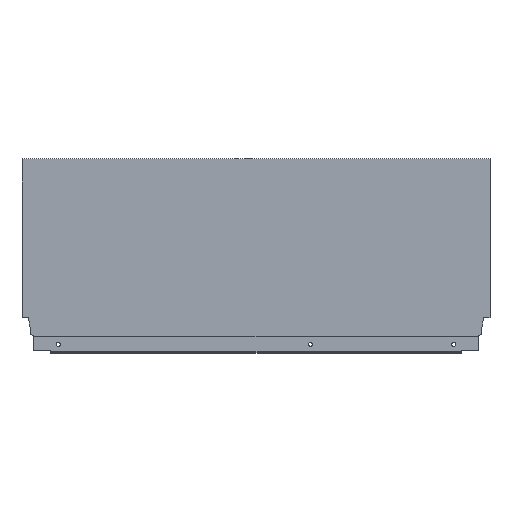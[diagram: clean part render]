
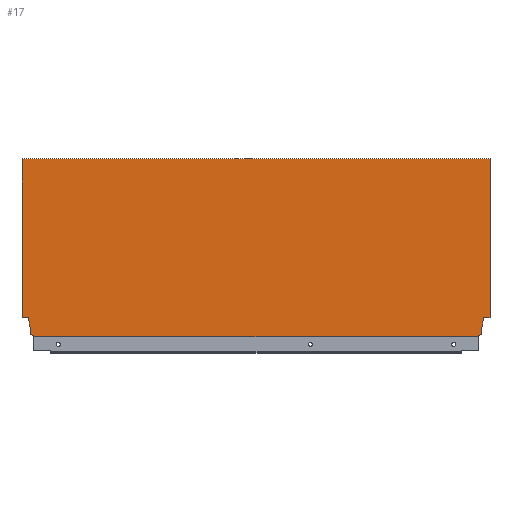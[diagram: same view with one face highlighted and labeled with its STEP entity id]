
A CAD part, top view. The second image highlights one B-rep face of the part: STEP entity #17.
In plain terms, the highlighted planar face has unit normal (0, 0, 1).
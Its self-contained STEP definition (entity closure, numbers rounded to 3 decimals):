
#17 = ADVANCED_FACE ( 'NONE', ( #1214 ), #669, .T. ) ;
#76 = CARTESIAN_POINT ( 'NONE',  ( -517., 196.7, 7.5 ) ) ;
#83 = DIRECTION ( 'NONE',  ( 1., 0., 0. ) ) ;
#91 = CARTESIAN_POINT ( 'NONE',  ( -517., 196.7, 7.5 ) ) ;
#98 = CARTESIAN_POINT ( 'NONE',  ( -13.004, 0., 7.5 ) ) ;
#99 = CARTESIAN_POINT ( 'NONE',  ( -8.9, 2.64, 7.5 ) ) ;
#100 = CARTESIAN_POINT ( 'NONE',  ( 0., 21.2, 7.5 ) ) ;
#101 = CARTESIAN_POINT ( 'NONE',  ( -517., 21.2, 7.5 ) ) ;
#128 = CARTESIAN_POINT ( 'NONE',  ( -8.9, 10.765, 7.5 ) ) ;
#136 = CARTESIAN_POINT ( 'NONE',  ( -509.94, 21.2, 7.5 ) ) ;
#140 = CARTESIAN_POINT ( 'NONE',  ( -503.996, 1.146, 7.5 ) ) ;
#145 = CARTESIAN_POINT ( 'NONE',  ( 0., 196.7, 7.5 ) ) ;
#151 = CARTESIAN_POINT ( 'NONE',  ( -13.004, 1.146, 7.5 ) ) ;
#157 = CARTESIAN_POINT ( 'NONE',  ( -503.996, 0., 7.5 ) ) ;
#161 = CARTESIAN_POINT ( 'NONE',  ( -7.06, 21.2, 7.5 ) ) ;
#163 = CARTESIAN_POINT ( 'NONE',  ( -508.1, 10.765, 7.5 ) ) ;
#165 = CARTESIAN_POINT ( 'NONE',  ( -508.1, 2.64, 7.5 ) ) ;
#196 = DIRECTION ( 'NONE',  ( 1., 0., 0. ) ) ;
#197 = CARTESIAN_POINT ( 'NONE',  ( -517., 0., 7.5 ) ) ;
#200 = CARTESIAN_POINT ( 'NONE',  ( -8.9, 10.765, 7.5 ) ) ;
#204 = DIRECTION ( 'NONE',  ( 0., -1., 0. ) ) ;
#205 = CARTESIAN_POINT ( 'NONE',  ( 0., 21.2, 7.5 ) ) ;
#208 = DIRECTION ( 'NONE',  ( -1., 0., 0. ) ) ;
#212 = DIRECTION ( 'NONE',  ( -0.94, 0.342, 0. ) ) ;
#213 = CARTESIAN_POINT ( 'NONE',  ( -508.1, 2.64, 7.5 ) ) ;
#302 = DIRECTION ( 'NONE',  ( 0., -1., 0. ) ) ;
#305 = CARTESIAN_POINT ( 'NONE',  ( -517., 0., 7.5 ) ) ;
#360 = EDGE_CURVE ( 'NONE', #728, #763, #1158, .T. ) ;
#361 = AXIS2_PLACEMENT_3D ( 'NONE', #666, #660, #659 ) ;
#363 = EDGE_CURVE ( 'NONE', #731, #748, #1150, .T. ) ;
#379 = EDGE_CURVE ( 'NONE', #727, #749, #1133, .T. ) ;
#382 = EDGE_CURVE ( 'NONE', #752, #762, #1127, .T. ) ;
#384 = EDGE_CURVE ( 'NONE', #725, #760, #1128, .T. ) ;
#389 = EDGE_CURVE ( 'NONE', #736, #735, #1104, .T. ) ;
#392 = EDGE_CURVE ( 'NONE', #761, #725, #1098, .T. ) ;
#401 = EDGE_CURVE ( 'NONE', #735, #752, #1036, .T. ) ;
#439 = EDGE_CURVE ( 'NONE', #766, #762, #935, .T. ) ;
#464 = EDGE_CURVE ( 'NONE', #766, #728, #894, .T. ) ;
#503 = EDGE_CURVE ( 'NONE', #727, #760, #1042, .T. ) ;
#518 = EDGE_CURVE ( 'NONE', #748, #761, #1441, .T. ) ;
#523 = EDGE_CURVE ( 'NONE', #763, #731, #1026, .T. ) ;
#528 = EDGE_CURVE ( 'NONE', #749, #736, #1023, .T. ) ;
#659 = DIRECTION ( 'NONE',  ( 1., 0., 0. ) ) ;
#660 = DIRECTION ( 'NONE',  ( 0., 0., 1. ) ) ;
#666 = CARTESIAN_POINT ( 'NONE',  ( -517., 0., 7.5 ) ) ;
#669 = PLANE ( 'NONE',  #361 ) ;
#725 = VERTEX_POINT ( 'NONE', #151 ) ;
#727 = VERTEX_POINT ( 'NONE', #157 ) ;
#728 = VERTEX_POINT ( 'NONE', #145 ) ;
#731 = VERTEX_POINT ( 'NONE', #161 ) ;
#735 = VERTEX_POINT ( 'NONE', #163 ) ;
#736 = VERTEX_POINT ( 'NONE', #165 ) ;
#748 = VERTEX_POINT ( 'NONE', #128 ) ;
#749 = VERTEX_POINT ( 'NONE', #140 ) ;
#752 = VERTEX_POINT ( 'NONE', #136 ) ;
#760 = VERTEX_POINT ( 'NONE', #98 ) ;
#761 = VERTEX_POINT ( 'NONE', #99 ) ;
#762 = VERTEX_POINT ( 'NONE', #101 ) ;
#763 = VERTEX_POINT ( 'NONE', #100 ) ;
#766 = VERTEX_POINT ( 'NONE', #91 ) ;
#814 = CARTESIAN_POINT ( 'NONE',  ( -8.9, 2.64, 7.5 ) ) ;
#830 = DIRECTION ( 'NONE',  ( -0.94, -0.342, 0. ) ) ;
#851 = DIRECTION ( 'NONE',  ( 0., -1., 0. ) ) ;
#853 = CARTESIAN_POINT ( 'NONE',  ( -7.06, 21.2, 7.5 ) ) ;
#864 = CARTESIAN_POINT ( 'NONE',  ( -13.004, 1.146, 7.5 ) ) ;
#865 = DIRECTION ( 'NONE',  ( 0., -1., 0. ) ) ;
#869 = DIRECTION ( 'NONE',  ( -1., 0., 0. ) ) ;
#870 = CARTESIAN_POINT ( 'NONE',  ( -522., 21.2, 7.5 ) ) ;
#875 = DIRECTION ( 'NONE',  ( 0., 1., 0. ) ) ;
#876 = CARTESIAN_POINT ( 'NONE',  ( -503.996, 1.146, 7.5 ) ) ;
#880 = CARTESIAN_POINT ( 'NONE',  ( -508.1, 10.765, 7.5 ) ) ;
#881 = DIRECTION ( 'NONE',  ( 0., 1., 0. ) ) ;
#885 = CARTESIAN_POINT ( 'NONE',  ( 0., 0., 7.5 ) ) ;
#888 = DIRECTION ( 'NONE',  ( -0.174, -0.985, 0. ) ) ;
#893 = VECTOR ( 'NONE', #83, 1000. ) ;
#894 = LINE ( 'NONE', #76, #893 ) ;
#934 = VECTOR ( 'NONE', #302, 1000. ) ;
#935 = LINE ( 'NONE', #305, #934 ) ;
#971 = CARTESIAN_POINT ( 'NONE',  ( -509.94, 21.2, 7.5 ) ) ;
#979 = DIRECTION ( 'NONE',  ( -0.174, 0.985, 0. ) ) ;
#1023 = LINE ( 'NONE', #213, #1070 ) ;
#1026 = LINE ( 'NONE', #205, #1169 ) ;
#1035 = VECTOR ( 'NONE', #979, 1000. ) ;
#1036 = LINE ( 'NONE', #971, #1035 ) ;
#1041 = VECTOR ( 'NONE', #196, 1000. ) ;
#1042 = LINE ( 'NONE', #197, #1041 ) ;
#1046 = EDGE_LOOP ( 'NONE', ( #1321, #1320, #1319, #1318, #1317, #1316, #1315, #1314, #1313, #1312, #1311, #1310, #1309, #1308 ) ) ;
#1070 = VECTOR ( 'NONE', #212, 1000. ) ;
#1091 = VECTOR ( 'NONE', #204, 1000. ) ;
#1097 = VECTOR ( 'NONE', #830, 1000. ) ;
#1098 = LINE ( 'NONE', #814, #1097 ) ;
#1103 = VECTOR ( 'NONE', #881, 1000. ) ;
#1104 = LINE ( 'NONE', #880, #1103 ) ;
#1126 = VECTOR ( 'NONE', #869, 1000. ) ;
#1127 = LINE ( 'NONE', #870, #1126 ) ;
#1128 = LINE ( 'NONE', #864, #1147 ) ;
#1132 = VECTOR ( 'NONE', #875, 1000. ) ;
#1133 = LINE ( 'NONE', #876, #1132 ) ;
#1147 = VECTOR ( 'NONE', #865, 1000. ) ;
#1149 = VECTOR ( 'NONE', #888, 1000. ) ;
#1150 = LINE ( 'NONE', #853, #1149 ) ;
#1152 = VECTOR ( 'NONE', #851, 1000. ) ;
#1158 = LINE ( 'NONE', #885, #1152 ) ;
#1169 = VECTOR ( 'NONE', #208, 1000. ) ;
#1214 = FACE_OUTER_BOUND ( 'NONE', #1046, .T. ) ;
#1308 = ORIENTED_EDGE ( 'NONE', *, *, #464, .F. ) ;
#1309 = ORIENTED_EDGE ( 'NONE', *, *, #360, .F. ) ;
#1310 = ORIENTED_EDGE ( 'NONE', *, *, #523, .F. ) ;
#1311 = ORIENTED_EDGE ( 'NONE', *, *, #363, .F. ) ;
#1312 = ORIENTED_EDGE ( 'NONE', *, *, #518, .F. ) ;
#1313 = ORIENTED_EDGE ( 'NONE', *, *, #392, .F. ) ;
#1314 = ORIENTED_EDGE ( 'NONE', *, *, #384, .F. ) ;
#1315 = ORIENTED_EDGE ( 'NONE', *, *, #503, .T. ) ;
#1316 = ORIENTED_EDGE ( 'NONE', *, *, #379, .F. ) ;
#1317 = ORIENTED_EDGE ( 'NONE', *, *, #528, .F. ) ;
#1318 = ORIENTED_EDGE ( 'NONE', *, *, #389, .F. ) ;
#1319 = ORIENTED_EDGE ( 'NONE', *, *, #401, .F. ) ;
#1320 = ORIENTED_EDGE ( 'NONE', *, *, #382, .F. ) ;
#1321 = ORIENTED_EDGE ( 'NONE', *, *, #439, .T. ) ;
#1441 = LINE ( 'NONE', #200, #1091 ) ;
